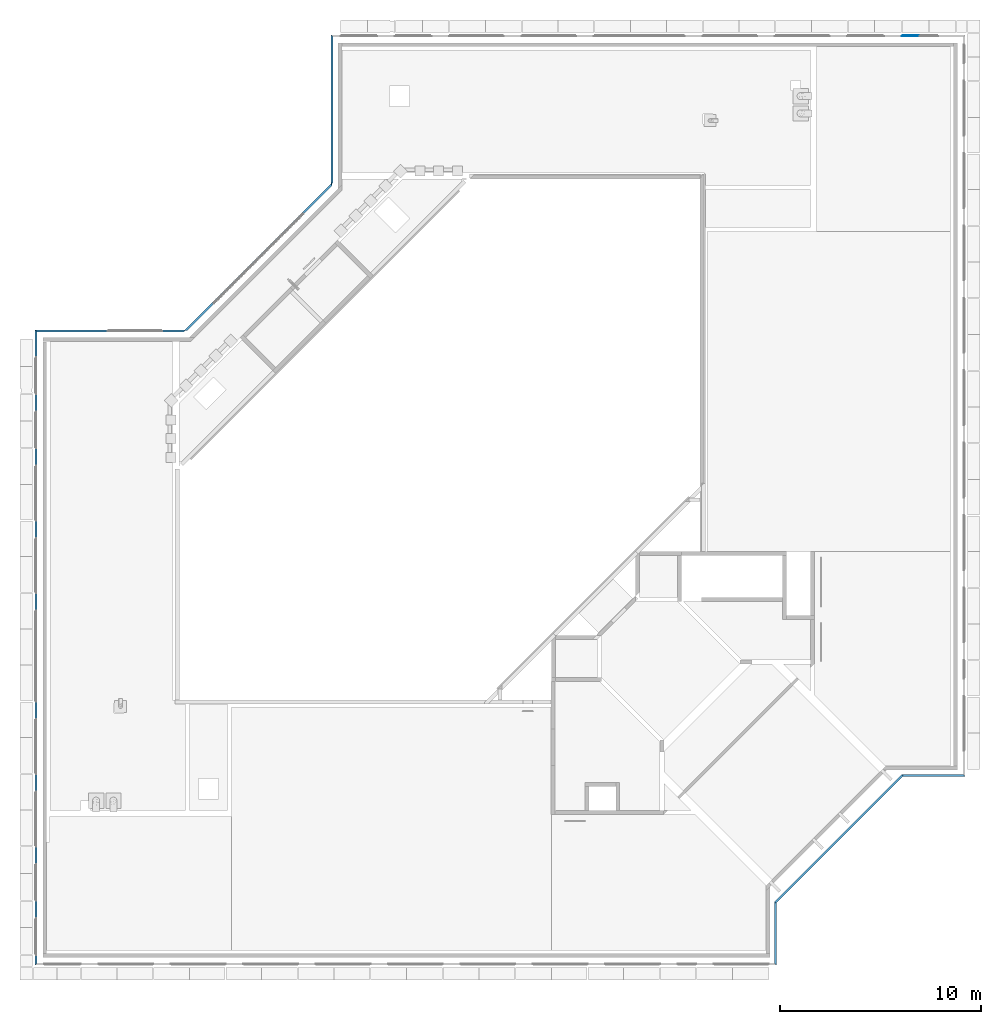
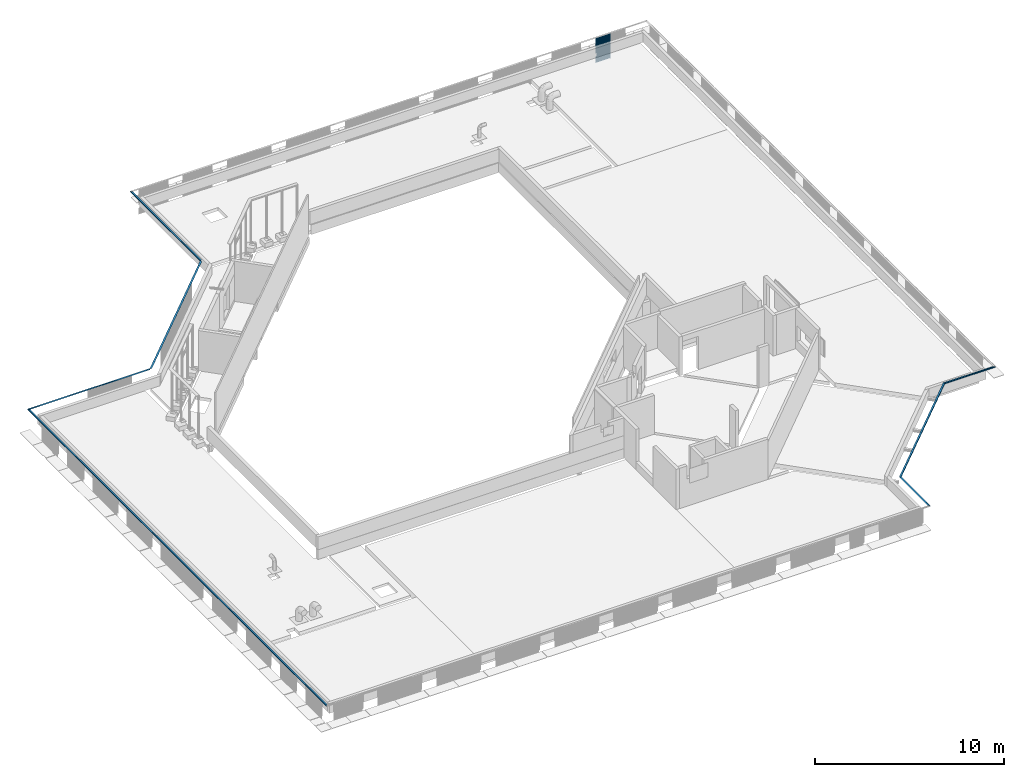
# One storey, part 34 of 37: 7 discrete accessories, 1 wall.
"""IFC4X3_ADD2 building model written with IfcOpenShell, lengths in millimetres."""

from ifc_helpers import new_model, si_unit, direction, frame, origin_with_axes, place, context, subcontext, project, spatial, polygons, source, transform, mapped, material, element, save


model = new_model("IFC4X3_ADD2")

# Units and contexts
model_context = context("Model", 3, precision=1e-05, world=origin_with_axes(), true_north=direction((0.0, 1.0)))
body_context = subcontext(model_context, "Body", "Model", "MODEL_VIEW")
ifc_project = project(units=[si_unit("LENGTHUNIT", "METRE", prefix="MILLI"), si_unit("AREAUNIT", "SQUARE_METRE"), si_unit("VOLUMEUNIT", "CUBIC_METRE"), si_unit("PLANEANGLEUNIT", "RADIAN"), si_unit("TIMEUNIT", "SECOND"), si_unit("MASSUNIT", "GRAM")], contexts=[model_context])

# Site, building, storey
site_placement = place(None, origin_with_axes())
site = spatial("IfcSite", under=ifc_project, at=site_placement, Name="Site", CompositionType="ELEMENT")
building_placement = place(site_placement, origin_with_axes())
building = spatial("IfcBuilding", under=site, at=building_placement, Name="IFC Building Story")
storey_placement = place(building_placement, frame((0.0, 0.0, 14400.0), z_axis=(0.0, 0.0, 1.0), x_axis=(1.0, 0.0, 0.0)))
storey = spatial("IfcBuildingStorey", under=building, at=storey_placement, Name="040", Elevation=14400.0)

# Wall
wall_placement = place(storey_placement, frame((0.0, 0.0, -14400.0), z_axis=(0.0, 0.0, 1.0), x_axis=(1.0, 0.0, 0.0)))
element("IfcWall", 1, at=wall_placement, inside=storey, Name="BB_07.10_Gevelbekleding_PuntProfiel, 900 mm, console rechts_GMO:900 x 1600 mm", ObjectType="BB_07.10_Gevelbekleding_PuntProfiel, 900 mm, console rechts_GMO:900 x 1600 mm", PredefinedType="NOTDEFINED", context=body_context, shape_type="Tessellation", body=[
    polygons([(-2604.999999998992, 45734.99999999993, 14060.0), (-2604.999999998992, 45733.58578643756, 14060.0), (-2619.999999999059, 45748.58578643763, 14060.0), (-2653.585786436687, 45715.0, 14060.0), (-2676.41421356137, 45715.00000000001, 14060.0), (-2675.99999999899, 45716.0, 14060.0), (-2653.999999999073, 45715.99999999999, 14060.0), (-2619.999999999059, 45750.0, 14060.0), (-2604.999999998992, 45734.99999999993, 13860.0), (-2604.999999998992, 45733.58578643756, 13860.0), (-2619.999999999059, 45750.00000000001, 13860.0), (-2653.999999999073, 45716.0, 13860.0), (-2675.99999999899, 45716.0, 13860.0), (-2676.41421356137, 45715.0, 13860.0), (-2653.585786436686, 45715.0, 13860.0), (-2619.999999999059, 45748.58578643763, 13860.0), (-1843.999999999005, 45716.0, 15040.0), (-1865.999999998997, 45716.0, 15040.0), (-1899.999999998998, 45750.0, 15040.0), (-1933.999999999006, 45716.0, 15040.0), (-1955.999999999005, 45716.0, 15040.0), (-1989.999999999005, 45750.0, 15040.0), (-2023.999999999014, 45716.0, 15040.0), (-2045.999999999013, 45716.0, 15040.0), (-2079.999999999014, 45750.00000000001, 15040.0), (-2113.999999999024, 45716.0, 15040.0), (-2135.999999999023, 45716.0, 15040.0), (-2169.999999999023, 45750.00000000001, 15040.0), (-2203.999999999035, 45716.0, 15040.0), (-2225.999999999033, 45716.0, 15040.0), (-2259.999999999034, 45750.00000000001, 15040.0), (-2293.999999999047, 45716.0, 15040.0), (-2315.999999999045, 45716.0, 15040.0), (-2349.999999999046, 45750.00000000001, 15040.0), (-2383.99999999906, 45716.0, 15040.0), (-2405.999999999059, 45716.0, 15040.0), (-2439.999999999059, 45750.00000000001, 15040.0), (-2473.999999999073, 45716.0, 15040.0), (-2495.999999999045, 45716.0, 15040.0), (-2529.999999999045, 45750.00000000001, 15040.0), (-2563.999999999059, 45716.0, 15040.0), (-2585.999999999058, 45716.0, 15040.0), (-2619.999999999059, 45750.00000000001, 15040.0), (-2653.999999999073, 45716.0, 15040.0), (-2675.99999999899, 45716.0, 15040.0), (-2676.41421356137, 45715.00000000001, 15040.0), (-2653.585786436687, 45715.00000000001, 15040.0), (-2619.999999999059, 45748.58578643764, 15040.0), (-2586.414213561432, 45715.00000000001, 15040.0), (-2563.585786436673, 45715.00000000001, 15040.0), (-2529.999999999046, 45748.58578643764, 15040.0), (-2496.414213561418, 45715.00000000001, 15040.0), (-2473.585786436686, 45715.00000000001, 15040.0), (-2439.999999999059, 45748.58578643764, 15040.0), (-2406.414213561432, 45715.00000000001, 15040.0), (-2383.585786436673, 45715.00000000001, 15040.0), (-2349.999999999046, 45748.58578643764, 15040.0), (-2316.414213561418, 45715.00000000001, 15040.0), (-2293.585786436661, 45715.00000000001, 15040.0), (-2259.999999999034, 45748.58578643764, 15040.0), (-2226.414213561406, 45715.00000000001, 15040.0), (-2203.585786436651, 45715.00000000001, 15040.0), (-2169.999999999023, 45748.58578643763, 15040.0), (-2136.414213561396, 45715.00000000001, 15040.0), (-2113.585786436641, 45715.00000000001, 15040.0), (-2079.999999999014, 45748.58578643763, 15040.0), (-2046.414213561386, 45715.00000000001, 15040.0), (-2023.585786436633, 45715.00000000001, 15040.0), (-1989.999999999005, 45748.58578643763, 15040.0), (-1956.414213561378, 45715.0, 15040.0), (-1933.585786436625, 45715.0, 15040.0), (-1899.999999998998, 45748.58578643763, 15040.0), (-1866.41421356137, 45715.0, 15040.0), (-1843.585786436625, 45715.0, 15040.0), (-1809.999999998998, 45748.58578643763, 15040.0), (-1776.414213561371, 45715.0, 15040.0), (-1753.585786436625, 45715.0, 15040.0), (-1753.999999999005, 45716.0, 15040.0), (-1775.999999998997, 45716.0, 15040.0), (-1809.999999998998, 45750.0, 15040.0), (-1843.999999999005, 45716.0, 13440.0), (-1809.999999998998, 45750.0, 13440.0), (-1775.999999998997, 45716.0, 13440.0), (-1753.999999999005, 45716.0, 13440.0), (-1753.585786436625, 45715.0, 13440.0), (-1776.414213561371, 45715.0, 13440.0), (-1809.999999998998, 45748.58578643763, 13440.0), (-1843.585786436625, 45715.0, 13440.0), (-1866.41421356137, 45715.0, 13440.0), (-1899.999999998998, 45748.58578643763, 13440.0), (-1933.585786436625, 45715.0, 13440.0), (-1956.414213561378, 45715.0, 13440.0), (-1989.999999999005, 45748.58578643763, 13440.0), (-2023.585786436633, 45715.00000000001, 13440.0), (-2046.414213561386, 45715.00000000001, 13440.0), (-2079.999999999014, 45748.58578643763, 13440.0), (-2113.585786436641, 45715.00000000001, 13440.0), (-2136.414213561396, 45715.00000000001, 13440.0), (-2169.999999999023, 45748.58578643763, 13440.0), (-2203.585786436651, 45715.00000000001, 13440.0), (-2226.414213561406, 45715.00000000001, 13440.0), (-2259.999999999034, 45748.58578643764, 13440.0), (-2293.585786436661, 45715.00000000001, 13440.0), (-2316.414213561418, 45715.00000000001, 13440.0), (-2349.999999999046, 45748.58578643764, 13440.0), (-2383.585786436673, 45715.00000000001, 13440.0), (-2406.414213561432, 45715.00000000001, 13440.0), (-2439.999999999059, 45748.58578643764, 13440.0), (-2473.585786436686, 45715.00000000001, 13440.0), (-2496.414213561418, 45715.00000000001, 13440.0), (-2529.999999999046, 45748.58578643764, 13440.0), (-2563.585786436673, 45715.00000000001, 13440.0), (-2586.414213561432, 45715.00000000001, 13440.0), (-2619.999999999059, 45748.58578643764, 13440.0), (-2653.585786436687, 45715.00000000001, 13440.0), (-2676.41421356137, 45715.00000000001, 13440.0), (-2675.99999999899, 45716.0, 13440.0), (-2653.999999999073, 45716.0, 13440.0), (-2619.999999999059, 45750.00000000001, 13440.0), (-2585.999999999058, 45716.0, 13440.0), (-2563.999999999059, 45716.0, 13440.0), (-2529.999999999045, 45750.00000000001, 13440.0), (-2495.999999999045, 45716.0, 13440.0), (-2473.999999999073, 45716.0, 13440.0), (-2439.999999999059, 45750.00000000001, 13440.0), (-2405.999999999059, 45716.0, 13440.0), (-2383.99999999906, 45716.0, 13440.0), (-2349.999999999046, 45750.00000000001, 13440.0), (-2315.999999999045, 45716.0, 13440.0), (-2293.999999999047, 45716.0, 13440.0), (-2259.999999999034, 45750.00000000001, 13440.0), (-2225.999999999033, 45716.0, 13440.0), (-2203.999999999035, 45716.0, 13440.0), (-2169.999999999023, 45750.00000000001, 13440.0), (-2135.999999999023, 45716.0, 13440.0), (-2113.999999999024, 45716.0, 13440.0), (-2079.999999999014, 45750.00000000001, 13440.0), (-2045.999999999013, 45716.0, 13440.0), (-2023.999999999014, 45716.0, 13440.0), (-1989.999999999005, 45750.0, 13440.0), (-1955.999999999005, 45716.0, 13440.0), (-1933.999999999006, 45716.0, 13440.0), (-1899.999999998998, 45750.0, 13440.0), (-1865.999999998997, 45716.0, 13440.0)], [[[7, 8, 3]], [[7, 3, 4]], [[4, 5, 6]], [[4, 6, 7]], [[8, 1, 2]], [[8, 2, 3]], [[2, 1, 9, 10]], [[12, 13, 14]], [[12, 14, 15]], [[16, 10, 9]], [[16, 9, 11]], [[11, 12, 15]], [[11, 15, 16]], [[44, 45, 46]], [[44, 46, 47]], [[48, 49, 42]], [[48, 42, 43]], [[43, 44, 47]], [[43, 47, 48]], [[49, 50, 41]], [[49, 41, 42]], [[51, 52, 39]], [[51, 39, 40]], [[40, 41, 50]], [[40, 50, 51]], [[52, 53, 38]], [[52, 38, 39]], [[54, 55, 36]], [[54, 36, 37]], [[37, 38, 53]], [[37, 53, 54]], [[55, 56, 35]], [[55, 35, 36]], [[57, 58, 33]], [[57, 33, 34]], [[34, 35, 56]], [[34, 56, 57]], [[58, 59, 32]], [[58, 32, 33]], [[60, 61, 30]], [[60, 30, 31]], [[31, 32, 59]], [[31, 59, 60]], [[61, 62, 29]], [[61, 29, 30]], [[63, 64, 27]], [[63, 27, 28]], [[28, 29, 62]], [[28, 62, 63]], [[64, 65, 26]], [[64, 26, 27]], [[66, 67, 24]], [[66, 24, 25]], [[25, 26, 65]], [[25, 65, 66]], [[67, 68, 23]], [[67, 23, 24]], [[69, 70, 21]], [[69, 21, 22]], [[22, 23, 68]], [[22, 68, 69]], [[70, 71, 20]], [[70, 20, 21]], [[72, 73, 18]], [[72, 18, 19]], [[19, 20, 71]], [[19, 71, 72]], [[73, 74, 17]], [[73, 17, 18]], [[79, 80, 75]], [[79, 75, 76]], [[76, 77, 78]], [[76, 78, 79]], [[80, 17, 74]], [[80, 74, 75]], [[83, 84, 85]], [[83, 85, 86]], [[87, 88, 81]], [[87, 81, 82]], [[82, 83, 86]], [[82, 86, 87]], [[118, 119, 114]], [[118, 114, 115]], [[115, 116, 117]], [[115, 117, 118]], [[121, 122, 111]], [[121, 111, 112]], [[112, 113, 120]], [[112, 120, 121]], [[113, 114, 119]], [[113, 119, 120]], [[124, 125, 108]], [[124, 108, 109]], [[109, 110, 123]], [[109, 123, 124]], [[110, 111, 122]], [[110, 122, 123]], [[127, 128, 105]], [[127, 105, 106]], [[106, 107, 126]], [[106, 126, 127]], [[107, 108, 125]], [[107, 125, 126]], [[130, 131, 102]], [[130, 102, 103]], [[103, 104, 129]], [[103, 129, 130]], [[104, 105, 128]], [[104, 128, 129]], [[133, 134, 99]], [[133, 99, 100]], [[100, 101, 132]], [[100, 132, 133]], [[101, 102, 131]], [[101, 131, 132]], [[136, 137, 96]], [[136, 96, 97]], [[97, 98, 135]], [[97, 135, 136]], [[98, 99, 134]], [[98, 134, 135]], [[139, 140, 93]], [[139, 93, 94]], [[94, 95, 138]], [[94, 138, 139]], [[95, 96, 137]], [[95, 137, 138]], [[142, 143, 90]], [[142, 90, 91]], [[91, 92, 141]], [[91, 141, 142]], [[92, 93, 140]], [[92, 140, 141]], [[144, 81, 88]], [[144, 88, 89]], [[89, 90, 143]], [[89, 143, 144]], [[18, 17, 81, 144]], [[19, 18, 144, 143]], [[20, 19, 143, 142]], [[21, 20, 142, 141]], [[22, 21, 141, 140]], [[23, 22, 140, 139]], [[24, 23, 139, 138]], [[25, 24, 138, 137]], [[26, 25, 137, 136]], [[27, 26, 136, 135]], [[28, 27, 135, 134]], [[29, 28, 134, 133]], [[30, 29, 133, 132]], [[31, 30, 132, 131]], [[32, 31, 131, 130]], [[33, 32, 130, 129]], [[34, 33, 129, 128]], [[35, 34, 128, 127]], [[36, 35, 127, 126]], [[37, 36, 126, 125]], [[38, 37, 125, 124]], [[54, 53, 109, 108]], [[55, 54, 108, 107]], [[56, 55, 107, 106]], [[57, 56, 106, 105]], [[58, 57, 105, 104]], [[59, 58, 104, 103]], [[60, 59, 103, 102]], [[61, 60, 102, 101]], [[62, 61, 101, 100]], [[63, 62, 100, 99]], [[64, 63, 99, 98]], [[65, 64, 98, 97]], [[66, 65, 97, 96]], [[67, 66, 96, 95]], [[68, 67, 95, 94]], [[69, 68, 94, 93]], [[70, 69, 93, 92]], [[71, 70, 92, 91]], [[72, 71, 91, 90]], [[73, 72, 90, 89]], [[74, 73, 89, 88]], [[80, 79, 83, 82]], [[17, 80, 82, 81]], [[39, 38, 124, 123]], [[40, 39, 123, 122]], [[41, 40, 122, 121]], [[42, 41, 121, 120]], [[1, 8, 43]], [[1, 43, 42]], [[42, 9, 1]], [[42, 120, 9]], [[120, 119, 11]], [[120, 11, 9]], [[44, 43, 8, 7]], [[45, 44, 7, 6]], [[47, 46, 5, 4]], [[48, 47, 4, 3]], [[10, 16, 114]], [[10, 114, 113]], [[113, 2, 10]], [[2, 113, 49]], [[49, 48, 2]], [[48, 3, 2]], [[50, 49, 113, 112]], [[51, 50, 112, 111]], [[52, 51, 111, 110]], [[53, 52, 110, 109]], [[75, 74, 88, 87]], [[76, 75, 87, 86]], [[46, 45, 6, 5]], [[77, 76, 86, 85]], [[78, 77, 85, 84]], [[79, 78, 84, 83]], [[117, 116, 14, 13]], [[115, 114, 16, 15]], [[116, 115, 15, 14]], [[118, 117, 13, 12]], [[119, 118, 12, 11]]]),
])

# Discrete accessories
ifc_material = material(Name="BB_Metaal_Aluminium_Buitenschrijnwerk")
shared_shape_1 = source(origin_with_axes(), body_context, "Body", "Tessellation", [
    polygons([(1.99999999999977, 1.99999999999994, 44.9888268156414), (1.99999999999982, 1.99999999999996, 5.00291224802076), (8.1015078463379, 8.10150784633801, 11.4146481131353), (9.51615595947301, 9.51615595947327, 9.99999999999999), (0.0, 0.0, 0.0), (0.0, 0.0, 59.9888268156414), (9.99999999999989, 9.99999999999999, 59.9888268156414), (9.99999999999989, 9.99999999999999, 57.9888268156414), (1.99999999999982, 1.99999999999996, 57.9888268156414), (1.99999999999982, 1.99999999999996, 46.9888268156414), (99.9999999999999, 99.9999999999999, 46.9888268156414), (99.9999999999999, 99.9999999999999, 44.9888268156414), (3089.69397942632, 1.99999999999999, 5.00291224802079), (3089.69397942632, 2.0, 44.9888268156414), (3130.28690853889, 99.9999999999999, 44.9888268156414), (3130.28690853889, 99.9999999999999, 46.9888268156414), (3089.69397942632, 2.0, 46.9888268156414), (3089.69397942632, 2.0, 57.9888268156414), (3093.00768792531, 9.99999999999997, 57.9888268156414), (3093.00768792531, 9.99999999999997, 59.9888268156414), (3088.86555230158, 0.0, 59.9888268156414), (3088.86555230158, 0.0, 0.0), (3092.80727316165, 9.51615595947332, 9.99999999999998), (3092.2213067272, 8.10150784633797, 11.4146481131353)], [[[2, 3, 4]], [[2, 4, 5]], [[5, 6, 1]], [[5, 1, 2]], [[10, 11, 12]], [[10, 12, 1]], [[10, 1, 6]], [[6, 9, 10]], [[6, 7, 8]], [[6, 8, 9]], [[18, 19, 20]], [[18, 20, 21]], [[21, 17, 18]], [[21, 14, 17]], [[14, 15, 16]], [[14, 16, 17]], [[21, 22, 13]], [[21, 13, 14]], [[22, 23, 24]], [[22, 24, 13]], [[2, 1, 14, 13]], [[5, 4, 23, 22]], [[3, 2, 13, 24]], [[6, 5, 22, 21]], [[4, 3, 24, 23]], [[7, 6, 21, 20]], [[8, 7, 20, 19]], [[9, 8, 19, 18]], [[10, 9, 18, 17]], [[11, 10, 17, 16]], [[12, 11, 16, 15]], [[1, 12, 15, 14]]]),
])
discrete_accessory_1_placement = place(storey_placement, frame((-8909.97175060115, -480.0, 620.0055865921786), z_axis=(0.0, 0.0, 1.0), x_axis=(0.0, 1.0, 0.0)))
element("IfcDiscreteAccessory", 2, at=discrete_accessory_1_placement, inside=storey, material=ifc_material, Name="BB_05.10_Dakrandprofiel, 60 mm_GLI:XX_Geen", ObjectType="BB_05.10_Dakrandprofiel, 60 mm_GLI:XX_Geen", PredefinedType="USERDEFINED", context=body_context, shape_type="MappedRepresentation", body=[
    mapped(shared_shape_1, transform((0.0, 0.0, 0.0))),
])
shared_shape_2 = source(origin_with_axes(), body_context, "Body", "Tessellation", [
    polygons([(40.5929291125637, 2.0, 44.9888268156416), (40.5929291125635, 2.0, 5.00291224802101), (38.0656018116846, 8.10150784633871, 11.4146481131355), (37.4796353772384, 9.51615595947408, 10.0), (41.4213562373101, 0.0, 0.0), (41.4213562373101, 0.0, 59.9888268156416), (37.2792206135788, 10.0, 59.9888268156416), (37.2792206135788, 10.0, 57.9888268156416), (40.5929291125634, 2.0, 57.9888268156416), (40.5929291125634, 2.0, 46.9888268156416), (0.0, 100.0, 46.9888268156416), (0.0, 100.0, 44.9888268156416), (8953.35962694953, 2.0, 5.00291224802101), (8953.35962694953, 2.0, 44.9888268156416), (8993.9525560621, 100.0, 44.9888268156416), (8993.9525560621, 100.0, 46.9888268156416), (8953.35962694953, 2.0, 46.9888268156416), (8953.35962694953, 2.0, 57.9888268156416), (8956.67333544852, 10.0, 57.9888268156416), (8956.67333544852, 10.0, 59.9888268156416), (8952.53119982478, 0.0, 59.9888268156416), (8952.53119982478, 0.0, 0.0), (8956.47292068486, 9.51615595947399, 10.0), (8955.88695425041, 8.10150784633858, 11.4146481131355)], [[[2, 3, 4]], [[2, 4, 5]], [[5, 6, 1]], [[5, 1, 2]], [[10, 11, 12]], [[10, 12, 1]], [[10, 1, 6]], [[6, 9, 10]], [[6, 7, 8]], [[6, 8, 9]], [[18, 19, 20]], [[18, 20, 21]], [[21, 17, 18]], [[21, 14, 17]], [[14, 15, 16]], [[14, 16, 17]], [[21, 22, 13]], [[21, 13, 14]], [[22, 23, 24]], [[22, 24, 13]], [[2, 1, 14, 13]], [[5, 4, 23, 22]], [[3, 2, 13, 24]], [[6, 5, 22, 21]], [[4, 3, 24, 23]], [[7, 6, 21, 20]], [[8, 7, 20, 19]], [[9, 8, 19, 18]], [[10, 9, 18, 17]], [[11, 10, 17, 16]], [[12, 11, 16, 15]], [[1, 12, 15, 14]]]),
])
discrete_accessory_2_placement = place(storey_placement, frame((-8939.26107248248, 2579.57623042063, 620.0055865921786), z_axis=(0.0, 0.0, 1.0), x_axis=(0.7071067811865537, 0.7071067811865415, 0.0)))
element("IfcDiscreteAccessory", 3, at=discrete_accessory_2_placement, inside=storey, material=ifc_material, Name="BB_05.10_Dakrandprofiel, 60 mm_GLI:XX_Geen", ObjectType="BB_05.10_Dakrandprofiel, 60 mm_GLI:XX_Geen", PredefinedType="USERDEFINED", context=body_context, shape_type="MappedRepresentation", body=[
    mapped(shared_shape_2, transform((0.0, 0.0, 0.0))),
])
shared_shape_3 = source(origin_with_axes(), body_context, "Body", "Tessellation", [
    polygons([(40.5929291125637, 2.0, 44.9888268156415), (40.5929291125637, 2.0, 5.00291224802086), (38.0656018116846, 8.10150784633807, 11.4146481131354), (37.4796353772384, 9.51615595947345, 10.0), (41.4213562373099, 0.0, 0.0), (41.4213562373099, 0.0, 59.9888268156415), (37.2792206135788, 10.0, 59.9888268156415), (37.2792206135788, 10.0, 57.9888268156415), (40.5929291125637, 2.0, 57.9888268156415), (40.5929291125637, 2.0, 46.9888268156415), (0.0, 100.0, 46.9888268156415), (0.0, 100.0, 44.9888268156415), (3128.28690853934, 2.0, 5.00291224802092), (3128.28690853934, 2.0, 44.9888268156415), (3030.28690853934, 100.0, 44.9888268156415), (3030.28690853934, 100.0, 46.9888268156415), (3128.28690853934, 2.0, 46.9888268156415), (3128.28690853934, 2.0, 57.9888268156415), (3120.28690853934, 10.0, 57.9888268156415), (3120.28690853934, 10.0, 59.9888268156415), (3130.28690853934, 0.0, 59.9888268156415), (3130.28690853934, 0.0, 0.0), (3120.77075257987, 9.5161559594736, 10.0), (3122.18540069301, 8.10150784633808, 11.4146481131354)], [[[2, 3, 4]], [[2, 4, 5]], [[5, 6, 1]], [[5, 1, 2]], [[10, 11, 12]], [[10, 12, 1]], [[10, 1, 6]], [[6, 9, 10]], [[6, 7, 8]], [[6, 8, 9]], [[18, 19, 20]], [[18, 20, 21]], [[21, 17, 18]], [[21, 14, 17]], [[14, 15, 16]], [[14, 16, 17]], [[21, 22, 13]], [[21, 13, 14]], [[22, 23, 24]], [[22, 24, 13]], [[2, 1, 14, 13]], [[5, 4, 23, 22]], [[3, 2, 13, 24]], [[6, 5, 22, 21]], [[4, 3, 24, 23]], [[7, 6, 21, 20]], [[8, 7, 20, 19]], [[9, 8, 19, 18]], [[10, 9, 18, 17]], [[11, 10, 17, 16]], [[12, 11, 16, 15]], [[1, 12, 15, 14]]]),
])
discrete_accessory_3_placement = place(storey_placement, frame((-2650.28690853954, 8909.97175060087, 620.0055865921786), z_axis=(0.0, 0.0, 1.0), x_axis=(1.0, 0.0, 0.0)))
element("IfcDiscreteAccessory", 4, at=discrete_accessory_3_placement, inside=storey, material=ifc_material, Name="BB_05.10_Dakrandprofiel, 60 mm_GLI:XX_Geen", ObjectType="BB_05.10_Dakrandprofiel, 60 mm_GLI:XX_Geen", PredefinedType="USERDEFINED", context=body_context, shape_type="MappedRepresentation", body=[
    mapped(shared_shape_3, transform((0.0, 0.0, 0.0))),
])
shared_shape_4 = source(origin_with_axes(), body_context, "Body", "Tessellation", [
    polygons([(2.00000000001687, 7442.76327650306, 44.9888268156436), (2.00000000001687, 7442.76327650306, 5.00291224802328), (8.10150784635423, 7436.66176865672, 11.414648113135), (9.5161559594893, 7435.24712054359, 9.99999999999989), (1.73258740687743e-11, 7444.76327650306, 0.0), (1.73258740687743e-11, 7444.76327650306, 59.9888268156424), (10.0000000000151, 7434.76327650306, 59.9888268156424), (10.0000000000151, 7434.76327650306, 57.9888268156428), (2.00000000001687, 7442.76327650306, 57.9888268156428), (2.00000000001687, 7442.76327650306, 46.9888268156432), (100.000000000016, 7344.76327650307, 46.9888268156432), (100.000000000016, 7344.76327650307, 44.9888268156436), (2.00000000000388, 44.4264068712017, 44.9888268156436), (2.00000000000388, 44.4264068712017, 5.00291224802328), (9.51615595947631, 51.9425628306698, 9.99999999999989), (4.33146851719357e-12, 42.4264068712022, 2.16573425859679e-12), (8.10150784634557, 50.5279147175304, 11.414648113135), (4.33146851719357e-12, 42.4264068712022, 59.9888268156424), (10.0000000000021, 52.4264068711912, 59.9888268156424), (10.0000000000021, 52.4264068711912, 57.9888268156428), (2.00000000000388, 44.4264068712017, 57.9888268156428), (2.00000000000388, 44.4264068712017, 46.9888268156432), (29.9999999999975, 72.4264068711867, 46.9888268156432), (30.0000000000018, 69.5979797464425, 46.988826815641), (29.9999999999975, 30.0000000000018, 46.9888268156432), (100.000000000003, 100.000000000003, 46.9888268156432), (100.000000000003, 100.000000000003, 44.9888268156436), (29.9999999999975, 30.0000000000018, 44.9888268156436), (30.0000000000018, 69.5979797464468, 44.9888268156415), (29.9999999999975, 72.4264068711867, 44.9888268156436)], [[[2, 3, 4]], [[2, 4, 5]], [[5, 6, 1]], [[5, 1, 2]], [[10, 11, 12]], [[10, 12, 1]], [[10, 1, 6]], [[6, 9, 10]], [[6, 7, 8]], [[6, 8, 9]], [[2, 1, 13, 14]], [[5, 4, 15, 16]], [[3, 2, 14, 17]], [[6, 5, 16, 18]], [[4, 3, 17, 15]], [[7, 6, 18, 19]], [[8, 7, 19, 20]], [[9, 8, 20, 21]], [[10, 9, 21, 22]], [[24, 25, 26]], [[26, 23, 24]], [[23, 26, 11]], [[23, 11, 10]], [[10, 22, 23]], [[12, 11, 26, 27]], [[30, 13, 1]], [[1, 12, 27]], [[1, 27, 30]], [[27, 29, 30]], [[27, 28, 29]], [[29, 28, 25]], [[29, 25, 24]], [[24, 23, 30]], [[24, 30, 29]], [[21, 20, 19]], [[21, 19, 18]], [[18, 22, 21]], [[22, 18, 13]], [[13, 30, 23]], [[13, 23, 22]], [[18, 16, 14]], [[18, 14, 13]], [[16, 15, 17]], [[16, 17, 14]], [[27, 26, 25, 28]]]),
    polygons([(2.00000000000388, 2.00000000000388, 46.9888268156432), (2.00000000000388, 2.00000000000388, 57.9888268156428), (10.0000000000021, 10.0000000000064, 57.9888268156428), (10.0000000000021, 10.0000000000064, 59.9888268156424), (4.33146851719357e-12, 4.33146851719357e-12, 59.9888268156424), (4.33146851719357e-12, 4.33146851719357e-12, 46.9888268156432), (2.00000000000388, 30.2842712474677, 57.9888268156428), (4.33146851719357e-12, 28.2842712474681, 57.9888268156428), (4.33146851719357e-12, 28.2842712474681, 59.9888268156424), (10.0000000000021, 38.2842712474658, 59.9888268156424), (10.0000000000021, 38.2842712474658, 57.9888268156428), (2.00000000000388, 41.5979797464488, 57.9888268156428), (4.33146851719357e-12, 39.597979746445, 57.9888268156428), (2.00000000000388, 41.5979797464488, 46.9888268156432), (4.33146851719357e-12, 39.597979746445, 46.9888268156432)], [[[2, 3, 4]], [[2, 4, 5]], [[5, 6, 1]], [[5, 1, 2]], [[7, 8, 9]], [[9, 10, 11]], [[9, 11, 7]], [[8, 7, 12, 13]], [[13, 12, 14, 15]], [[15, 14, 1, 6]], [[8, 13, 15]], [[15, 6, 5]], [[15, 5, 8]], [[5, 9, 8]], [[7, 2, 1]], [[7, 1, 14]], [[14, 12, 7]], [[5, 4, 10, 9]], [[4, 3, 11, 10]], [[3, 2, 7, 11]]]),
    polygons([(4.33146851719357e-12, 39.597979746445, 44.9888268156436), (2.00000000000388, 41.5979797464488, 44.9888268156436), (2.00000000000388, 41.5979797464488, 5.00291224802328), (4.33146851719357e-12, 39.5979797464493, 5.00291224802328), (6.75530663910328, 35.723836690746, 9.99999999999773), (9.51615595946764, 38.4846860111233, 10.0000000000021), (4.33146851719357e-12, 42.4264068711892, 0.0), (4.33146851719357e-12, 28.968530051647, 10.0000000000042), (2.00000000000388, 30.9685300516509, 9.99999999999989), (2.00000000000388, 37.6935491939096, 5.00291224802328), (8.10150784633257, 39.0706524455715, 11.4146481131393), (4.33146851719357e-12, 4.33146851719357e-12, 44.9888268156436), (2.00000000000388, 2.00000000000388, 44.9888268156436), (4.33146851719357e-12, 4.33146851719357e-12, 0.0), (4.33146851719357e-12, 30.9691445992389, 11.4146481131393), (2.00000000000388, 2.00000000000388, 5.00291224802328), (9.51615595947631, 9.51615595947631, 9.99999999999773), (8.10150784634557, 8.10150784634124, 11.414648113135), (2.00000000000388, 32.9691445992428, 11.4146481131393)], [[[1, 2, 3, 4]], [[10, 5, 6]], [[10, 6, 7]], [[7, 8, 9]], [[7, 9, 10]], [[6, 5, 11]], [[2, 1, 12, 13]], [[8, 7, 14]], [[14, 12, 1]], [[14, 1, 15]], [[14, 15, 8]], [[1, 4, 15]], [[16, 13, 12]], [[16, 12, 14]], [[14, 17, 18]], [[14, 18, 16]], [[19, 3, 2]], [[2, 13, 16]], [[2, 16, 9]], [[2, 9, 19]], [[16, 10, 9]], [[5, 10, 16]], [[5, 16, 18]], [[18, 11, 5]], [[4, 3, 19, 15]], [[9, 8, 15, 19]], [[17, 14, 7, 6]], [[18, 17, 6, 11]]]),
    polygons([(2.00000000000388, 41.5979797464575, 5.00291224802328), (4.76084932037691, 44.3588290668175, 5.00291224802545), (9.51615595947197, 42.3891165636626, 9.99999999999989), (8.10150784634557, 39.0706524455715, 11.4146481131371), (8.10150784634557, 47.6994875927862, 11.4146481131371), (9.51615595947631, 49.1141357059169, 10.0000000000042)], [[[1, 2, 3, 4]], [[4, 5, 1]], [[2, 1, 5, 6]], [[6, 3, 2]], [[3, 6, 5, 4]]]),
])
discrete_accessory_4_placement = place(storey_placement, frame((-31043.5857864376, 38335.2367234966, 620.0055865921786), z_axis=(0.0, 0.0, 1.0), x_axis=(1.0, 0.0, 0.0)))
element("IfcDiscreteAccessory", 5, at=discrete_accessory_4_placement, inside=storey, material=ifc_material, Name="BB_05.10_Dakrandprofiel, 60 mm_GLI:XX_Geen", ObjectType="BB_05.10_Dakrandprofiel, 60 mm_GLI:XX_Geen", PredefinedType="USERDEFINED", context=body_context, shape_type="MappedRepresentation", body=[
    mapped(shared_shape_4, transform((0.0, 0.0, 0.0))),
])
shared_shape_5 = source(origin_with_axes(), body_context, "Body", "Tessellation", [
    polygons([(7327.66313036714, 7324.83470324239, 44.9888268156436), (7327.66313036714, 7324.83470324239, 5.00291224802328), (7327.66313036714, 7316.20586809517, 11.414648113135), (7327.66313036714, 7314.20525354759, 9.99999999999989), (7327.66313036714, 7327.66313036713, 0.0), (7327.66313036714, 7327.66313036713, 44.9888268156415), (7327.66313036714, 7327.66313036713, 46.988826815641), (7327.66313036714, 7327.66313036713, 59.9888268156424), (7327.66313036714, 7313.52099474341, 59.9888268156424), (7327.66313036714, 7313.52099474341, 57.9888268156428), (7327.66313036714, 7324.83470324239, 57.9888268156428), (7327.66313036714, 7324.83470324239, 46.9888268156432), (7327.66313036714, 7285.23672349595, 46.988826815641), (7327.66313036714, 7186.24177412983, 46.9888268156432), (7327.66313036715, 7186.24177412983, 44.9888268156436), (7327.66313036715, 7285.23672349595, 44.9888268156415), (2.82842712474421, 0.0, 5.00291224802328), (2.82842712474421, 4.33146851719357e-12, 44.9888268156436), (141.42135623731, 4.33146851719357e-12, 44.9888268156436), (141.42135623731, 4.33146851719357e-12, 46.9888268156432), (2.82842712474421, 0.0, 46.9888268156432), (2.82842712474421, 4.33146851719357e-12, 57.9888268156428), (14.1421356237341, 4.33146851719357e-12, 57.9888268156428), (14.1421356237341, 4.33146851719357e-12, 59.9888268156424), (0.0, 0.0, 59.9888268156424), (0.0, 0.0, 0.0), (13.4578768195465, 4.33146851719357e-12, 9.99999999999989), (11.4572622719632, 4.33146851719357e-12, 11.414648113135), (7299.66313036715, 7296.8347032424, 44.9888268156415), (7297.66313036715, 7294.83470324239, 44.9888268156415), (7297.66313036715, 7294.83470324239, 5.00291224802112), (7299.66313036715, 7296.8347032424, 5.00291224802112), (7302.42397968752, 7299.59555256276, 5.00291224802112), (7307.17928632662, 7293.72140950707, 9.99999999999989), (7304.41843700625, 7290.96056018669, 9.99999999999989), (7299.66313036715, 7286.20525354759, 9.99999999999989), (7297.66313036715, 7284.20525354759, 9.99999999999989), (7297.66313036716, 7286.20586809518, 11.414648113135), (7299.66313036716, 7288.20586809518, 11.414648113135), (7297.66313036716, 7297.66313036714, 59.9888268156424), (7307.66313036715, 7307.66313036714, 59.9888268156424), (7297.66313036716, 7283.52099474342, 59.9888268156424), (7307.66313036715, 7293.52099474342, 59.9888268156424), (7297.66313036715, 7283.52099474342, 57.9888268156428), (7299.66313036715, 7285.52099474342, 57.9888268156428), (7307.66313036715, 7293.52099474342, 57.9888268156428), (7297.66313036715, 7294.83470324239, 57.9888268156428), (7299.66313036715, 7296.8347032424, 57.9888268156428), (7297.66313036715, 7294.83470324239, 46.988826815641), (7299.66313036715, 7296.8347032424, 46.988826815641)], [[[2, 3, 4]], [[2, 4, 5]], [[6, 7, 1]], [[1, 2, 5]], [[1, 5, 6]], [[13, 14, 15]], [[13, 15, 16]], [[16, 1, 12]], [[16, 12, 13]], [[12, 1, 7]], [[7, 8, 11]], [[7, 11, 12]], [[8, 9, 10]], [[8, 10, 11]], [[22, 23, 24]], [[22, 24, 25]], [[25, 21, 22]], [[25, 18, 21]], [[18, 19, 20]], [[18, 20, 21]], [[25, 26, 17]], [[25, 17, 18]], [[26, 27, 28]], [[26, 28, 17]], [[30, 18, 17]], [[30, 17, 31]], [[31, 32, 29]], [[31, 29, 30]], [[33, 2, 1]], [[33, 1, 29]], [[29, 32, 33]], [[37, 27, 26]], [[37, 26, 5]], [[5, 36, 37]], [[5, 35, 36]], [[5, 34, 35]], [[5, 4, 34]], [[38, 39, 31]], [[31, 17, 28]], [[31, 28, 38]], [[39, 32, 31]], [[39, 33, 32]], [[39, 3, 2]], [[39, 2, 33]], [[6, 5, 26]], [[6, 26, 25]], [[25, 7, 6]], [[41, 8, 7]], [[7, 40, 41]], [[7, 25, 40]], [[37, 36, 38]], [[38, 28, 27]], [[38, 27, 37]], [[36, 39, 38]], [[34, 4, 3]], [[34, 3, 39]], [[39, 35, 34]], [[39, 36, 35]], [[42, 43, 40]], [[40, 25, 24]], [[40, 24, 42]], [[43, 41, 40]], [[43, 9, 8]], [[43, 8, 41]], [[42, 24, 23]], [[42, 23, 44]], [[45, 46, 43]], [[45, 43, 42]], [[42, 44, 45]], [[46, 10, 9]], [[46, 9, 43]], [[44, 23, 22]], [[44, 22, 47]], [[47, 45, 44]], [[47, 48, 46]], [[47, 46, 45]], [[48, 11, 10]], [[48, 10, 46]], [[47, 22, 21]], [[47, 21, 49]], [[49, 50, 48]], [[49, 48, 47]], [[50, 12, 11]], [[50, 11, 48]], [[50, 49, 13]], [[13, 12, 50]], [[49, 21, 20]], [[49, 20, 14]], [[49, 14, 13]], [[15, 14, 20, 19]], [[16, 15, 19]], [[16, 19, 18]], [[16, 18, 30]], [[29, 1, 16]], [[16, 30, 29]]]),
])
discrete_accessory_5_placement = place(storey_placement, frame((-38341.2489168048, 31080.0, 620.0055865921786), z_axis=(0.0, 0.0, 1.0), x_axis=(1.0, 0.0, 0.0)))
element("IfcDiscreteAccessory", 6, at=discrete_accessory_5_placement, inside=storey, material=ifc_material, Name="BB_05.10_Dakrandprofiel, 60 mm_GLI:XX_Geen", ObjectType="BB_05.10_Dakrandprofiel, 60 mm_GLI:XX_Geen", PredefinedType="USERDEFINED", context=body_context, shape_type="MappedRepresentation", body=[
    mapped(shared_shape_5, transform((0.0, 0.0, 0.0))),
])
shared_shape_6 = source(origin_with_axes(), body_context, "Body", "Tessellation", [
    polygons([(1.99999999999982, 2.0, 44.9888268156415), (2.0, 2.0, 5.00291224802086), (8.10150784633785, 8.10150784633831, 11.4146481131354), (9.51615595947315, 9.51615595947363, 10.0), (0.0, 0.0, 0.0), (0.0, 0.0, 59.9888268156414), (9.99999999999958, 10.0, 59.9888268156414), (9.99999999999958, 10.0, 57.9888268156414), (2.0, 2.0, 57.9888268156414), (2.0, 2.0, 46.9888268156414), (100.0, 100.0, 46.9888268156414), (100.0, 100.0, 44.9888268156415), (7509.17749006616, 2.0, 5.0029122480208), (7509.17749006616, 2.0, 44.9888268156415), (7411.17749006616, 100.0, 44.9888268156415), (7411.17749006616, 100.0, 46.9888268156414), (7509.17749006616, 2.0, 46.9888268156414), (7509.17749006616, 2.0, 57.9888268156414), (7501.17749006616, 10.0, 57.9888268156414), (7501.17749006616, 10.0, 59.9888268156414), (7511.17749006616, 0.0, 59.9888268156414), (7511.17749006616, 0.0, 0.0), (7501.66133410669, 9.51615595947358, 10.0), (7503.07598221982, 8.10150784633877, 11.4146481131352)], [[[2, 3, 4]], [[2, 4, 5]], [[5, 6, 1]], [[5, 1, 2]], [[10, 11, 12]], [[10, 12, 1]], [[10, 1, 6]], [[6, 9, 10]], [[6, 7, 8]], [[6, 8, 9]], [[18, 19, 20]], [[18, 20, 21]], [[21, 17, 18]], [[21, 14, 17]], [[14, 15, 16]], [[14, 16, 17]], [[21, 22, 13]], [[21, 13, 14]], [[22, 23, 24]], [[22, 24, 13]], [[2, 1, 14, 13]], [[5, 4, 23, 22]], [[3, 2, 13, 24]], [[6, 5, 22, 21]], [[4, 3, 24, 23]], [[7, 6, 21, 20]], [[8, 7, 20, 19]], [[9, 8, 19, 18]], [[10, 9, 18, 17]], [[11, 10, 17, 16]], [[12, 11, 16, 15]], [[1, 12, 15, 14]]]),
])
discrete_accessory_6_placement = place(storey_placement, frame((-38268.8225099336, 31110.0, 620.0055865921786), z_axis=(0.0, 0.0, 1.0), x_axis=(-1.0, 0.0, 0.0)))
element("IfcDiscreteAccessory", 7, at=discrete_accessory_6_placement, inside=storey, material=ifc_material, Name="BB_05.10_Dakrandprofiel, 60 mm_GLI:XX_Geen", ObjectType="BB_05.10_Dakrandprofiel, 60 mm_GLI:XX_Geen", PredefinedType="USERDEFINED", context=body_context, shape_type="MappedRepresentation", body=[
    mapped(shared_shape_6, transform((0.0, 0.0, 0.0))),
])
shared_shape_7 = source(origin_with_axes(), body_context, "Body", "Tessellation", [
    polygons([(1.99999999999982, 2.00000000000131, 44.988826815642), (2.0, 2.00000000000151, 5.00291224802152), (8.10150784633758, 8.10150784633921, 11.4146481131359), (9.51615595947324, 9.5161559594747, 10.0), (1.17169607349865e-12, 1.66237024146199e-12, 0.0), (1.35358391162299e-12, 1.84425807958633e-12, 59.9888268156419), (10.0, 10.0000000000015, 59.9888268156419), (10.0, 10.0000000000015, 57.9888268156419), (2.0, 2.00000000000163, 57.9888268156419), (2.0, 2.00000000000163, 46.9888268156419), (99.9999999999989, 100.0, 46.9888268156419), (99.9999999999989, 100.0, 44.988826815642), (31588.0000000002, 2.0, 5.00291224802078), (31588.0000000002, 2.00000000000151, 44.988826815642), (31490.0000000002, 100.0, 44.988826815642), (31490.0000000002, 100.0, 46.9888268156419), (31588.0000000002, 2.0, 46.9888268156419), (31588.0000000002, 2.0, 57.9888268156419), (31580.0000000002, 10.0, 57.9888268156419), (31580.0000000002, 10.0, 59.9888268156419), (31590.0000000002, 0.0, 59.9888268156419), (31590.0000000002, 1.16323617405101e-12, 0.0), (31580.4838440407, 9.51615595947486, 10.0), (31581.8984921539, 8.10150784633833, 11.4146481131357)], [[[2, 3, 4]], [[2, 4, 5]], [[5, 6, 1]], [[5, 1, 2]], [[10, 11, 12]], [[10, 12, 1]], [[10, 1, 6]], [[6, 9, 10]], [[6, 7, 8]], [[6, 8, 9]], [[18, 19, 20]], [[18, 20, 21]], [[21, 17, 18]], [[21, 14, 17]], [[14, 15, 16]], [[14, 16, 17]], [[21, 22, 13]], [[21, 13, 14]], [[22, 23, 24]], [[22, 24, 13]], [[2, 1, 14, 13]], [[5, 4, 23, 22]], [[3, 2, 13, 24]], [[6, 5, 22, 21]], [[4, 3, 24, 23]], [[7, 6, 21, 20]], [[8, 7, 20, 19]], [[9, 8, 19, 18]], [[10, 9, 18, 17]], [[11, 10, 17, 16]], [[12, 11, 16, 15]], [[1, 12, 15, 14]]]),
])
discrete_accessory_7_placement = place(storey_placement, frame((-45780.0, 31110.0, 620.0055865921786), z_axis=(0.0, 0.0, 1.0), x_axis=(0.0, -1.0, 0.0)))
element("IfcDiscreteAccessory", 8, at=discrete_accessory_7_placement, inside=storey, material=ifc_material, Name="BB_05.10_Dakrandprofiel, 60 mm_GLI:XX_Geen", ObjectType="BB_05.10_Dakrandprofiel, 60 mm_GLI:XX_Geen", PredefinedType="USERDEFINED", context=body_context, shape_type="MappedRepresentation", body=[
    mapped(shared_shape_7, transform((0.0, 0.0, 0.0))),
])

save(model, "model.ifc")
